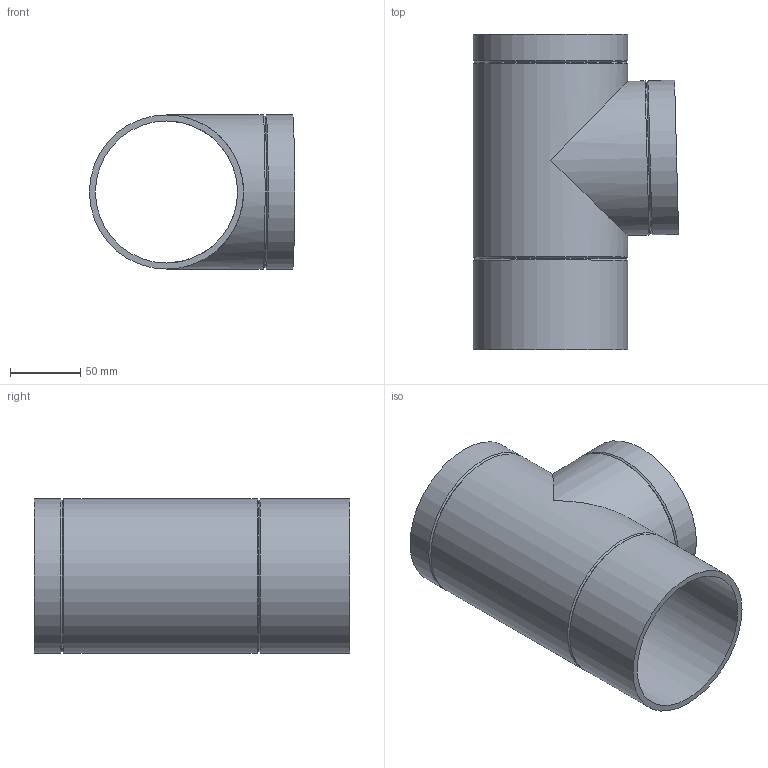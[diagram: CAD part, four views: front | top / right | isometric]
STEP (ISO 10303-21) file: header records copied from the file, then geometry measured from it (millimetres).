
FILE_DESCRIPTION(/* description */ (''),/* implementation_level */ '2;1');
FILE_NAME(/* name */ 'Z:\Geberit\Export\NewStep\367185.stp',/* time_stamp */ '2014-04-02T07:56:08+02:00',/* author */ ('nelson'),/* organization */ (''),/* preprocessor_version */ 'ST-DEVELOPER v15.2',/* originating_system */ 'Autodesk Inventor 2014',/* authorisation */ '');
FILE_SCHEMA (('AUTOMOTIVE_DESIGN { 1 0 10303 214 3 1 1 }'));
Length unit declared in the file: millimetre
Products named in the file (1): 367185
Bounding box: 146.41 x 225 x 110 mm (x, y, z)
Volume: 352368.2 mm3; surface area: 169618.7 mm2
Topology: 1 solids, 1 shells, 16 faces, 39 edges, 25 vertices
Faces by surface type: cylinder 7, cone 6, plane 3
Full cylindrical faces by diameter (mm): 101.4 x2, 110 x5
Entity records: 399 total; most frequent: DIRECTION 72, CARTESIAN_POINT 55, ORIENTED_EDGE 38, AXIS2_PLACEMENT_3D 36, EDGE_LOOP 34, FACE_BOUND 22, VERTEX_POINT 19, EDGE_CURVE 19
